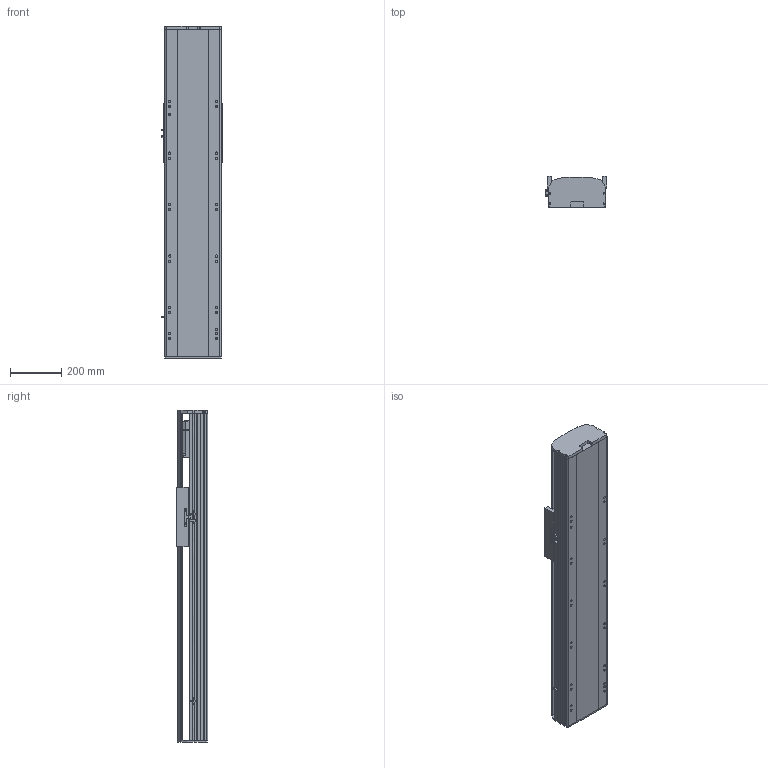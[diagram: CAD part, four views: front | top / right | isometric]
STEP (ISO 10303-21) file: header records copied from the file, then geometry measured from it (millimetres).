
FILE_DESCRIPTION (( 'STEP AP214' ), '1' );
FILE_NAME ('RTH22-XX-700-B-M75-C4.STEP', '2025-10-24T10:30:08', ( 'Microsoft' ), ( 'Microsoft' ), 'SwSTEP 2.0', 'SolidWorks 2018', '' );
FILE_SCHEMA (( 'AUTOMOTIVE_DESIGN' ));
Length unit declared in the file: millimetre
Products named in the file (9): RTH22-XX-700-B-M75-C4; N_RTH22-B-008萇儂啣^RTH22-XX-XX-B-M75-C4; N_RTH22-GY-001耜裔^RTH22-XX-XX-B-M75-C4; N_RTH22-B-007奻裔^RTH22-XX-XX-B-M75-C4; N_750W萇儂^RTH22-XX-XX-B-M75-C4; N_RTH22-E-004-SFS25賑釱^RTH22-XX-XX-B-M75-C4; N_OMRON EE-SX672 传感器^RTH22-XX-XX-B-M75-C4; N_RTH22-B-011菁釱^RTH22-XX-XX-B-M75-C4; N_RTH22-GY-013外置感应片^RTH22-XX-XX-B-M75-C4
Assembly tree (10 placements, depth 2):
  RTH22-XX-700-B-M75-C4
    N_RTH22-B-011菁釱^RTH22-XX-XX-B-M75-C4
    N_RTH22-GY-001耜裔^RTH22-XX-XX-B-M75-C4
    N_750W萇儂^RTH22-XX-XX-B-M75-C4
    N_RTH22-B-008萇儂啣^RTH22-XX-XX-B-M75-C4
    N_RTH22-B-007奻裔^RTH22-XX-XX-B-M75-C4
    N_OMRON EE-SX672 传感器^RTH22-XX-XX-B-M75-C4  x3
    N_RTH22-GY-013外置感应片^RTH22-XX-XX-B-M75-C4
    N_RTH22-E-004-SFS25賑釱^RTH22-XX-XX-B-M75-C4
Bounding box: 238.5 x 122 x 1290 mm (x, y, z)
Volume: 17977291.2 mm3; surface area: 1866845.4 mm2
Topology: 10 solids, 10 shells, 1515 faces, 4150 edges, 2683 vertices
Faces by surface type: plane 752, cylinder 430, bspline 279, cone 54
Entity records: 37433 total; most frequent: CARTESIAN_POINT 11697, ORIENTED_EDGE 5284, DIRECTION 4940, EDGE_CURVE 2642, VERTEX_POINT 1719, AXIS2_PLACEMENT_3D 1654, LINE 1632, VECTOR 1632
